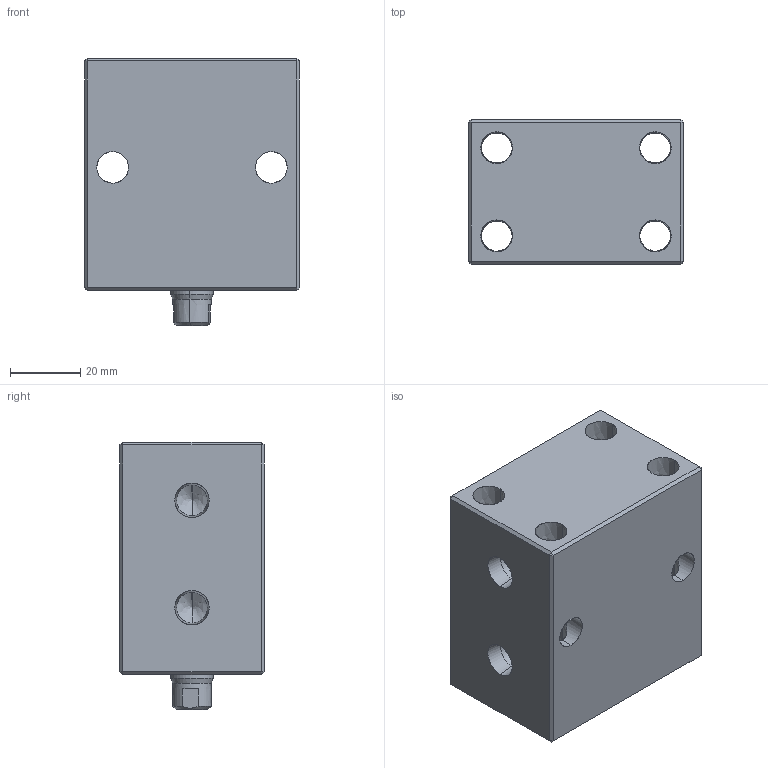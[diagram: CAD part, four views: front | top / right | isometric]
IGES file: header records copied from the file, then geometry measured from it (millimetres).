
Start section: SolidWorks IGES file using analytic representation for surfaces
Global section: file name: E:\ALL SSVT IGS MODEL\BLOCK CYLINDER\BC04-20-16-F.IGS; native system: SolidWorks 2019; preprocessor: SolidWorks 2019; author: SSVT; date: 210909.103721; units: millimetre
Bounding box: 61 x 41 x 76 mm (x, y, z)
Surface area: 30509.3 mm2 (no closed solid volume)
Topology: 0 solids, 0 shells, 95 faces, 1670 edges, 1664 vertices
Faces by surface type: revolution 62, bspline 33
